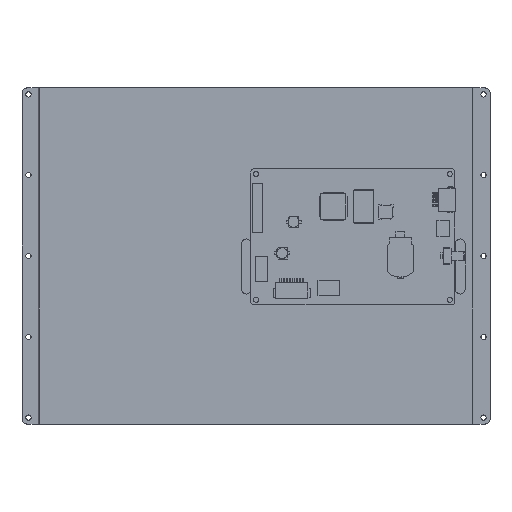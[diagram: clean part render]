
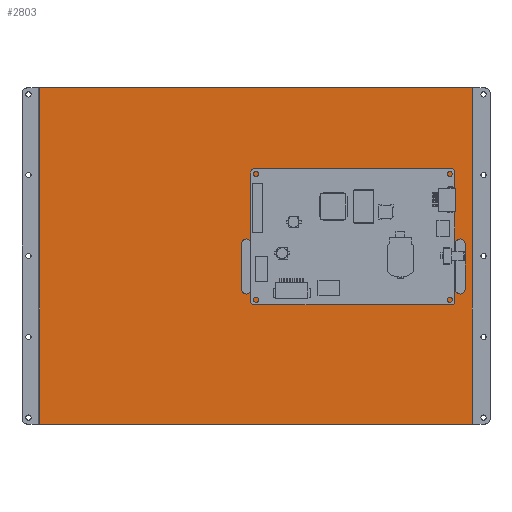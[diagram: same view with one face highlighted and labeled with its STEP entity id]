
A CAD part, top view. The second image highlights one B-rep face of the part: STEP entity #2803.
In plain terms, the highlighted planar face has unit normal (0, 0, 1).
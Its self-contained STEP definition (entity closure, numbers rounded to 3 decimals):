
#229=FACE_BOUND('',#7365,.T.);
#230=FACE_BOUND('',#7366,.T.);
#231=FACE_BOUND('',#7367,.T.);
#2803=ADVANCED_FACE('',(#229,#230,#231),#4313,.T.);
#4313=PLANE('',#32499);
#7365=EDGE_LOOP('',(#14634,#14635,#14636,#14637));
#7366=EDGE_LOOP('',(#14638,#14639,#14640,#14641));
#7367=EDGE_LOOP('',(#14642,#14643,#14644,#14645));
#14634=ORIENTED_EDGE('',*,*,#21594,.F.);
#14635=ORIENTED_EDGE('',*,*,#21595,.F.);
#14636=ORIENTED_EDGE('',*,*,#21596,.F.);
#14637=ORIENTED_EDGE('',*,*,#21597,.F.);
#14638=ORIENTED_EDGE('',*,*,#21598,.F.);
#14639=ORIENTED_EDGE('',*,*,#21599,.F.);
#14640=ORIENTED_EDGE('',*,*,#21600,.F.);
#14641=ORIENTED_EDGE('',*,*,#21601,.F.);
#14642=ORIENTED_EDGE('',*,*,#21602,.F.);
#14643=ORIENTED_EDGE('',*,*,#21593,.F.);
#14644=ORIENTED_EDGE('',*,*,#21603,.T.);
#14645=ORIENTED_EDGE('',*,*,#21604,.T.);
#17772=VERTEX_POINT('',#47968);
#17773=VERTEX_POINT('',#47970);
#17774=VERTEX_POINT('',#47974);
#17775=VERTEX_POINT('',#47975);
#17776=VERTEX_POINT('',#47977);
#17777=VERTEX_POINT('',#47979);
#17778=VERTEX_POINT('',#47982);
#17779=VERTEX_POINT('',#47983);
#17780=VERTEX_POINT('',#47985);
#17781=VERTEX_POINT('',#47987);
#17782=VERTEX_POINT('',#47990);
#17783=VERTEX_POINT('',#47992);
#21593=EDGE_CURVE('',#17773,#17772,#26158,.T.);
#21594=EDGE_CURVE('',#17774,#17775,#26159,.T.);
#21595=EDGE_CURVE('',#17776,#17774,#22114,.T.);
#21596=EDGE_CURVE('',#17777,#17776,#26160,.T.);
#21597=EDGE_CURVE('',#17775,#17777,#22115,.T.);
#21598=EDGE_CURVE('',#17778,#17779,#26161,.T.);
#21599=EDGE_CURVE('',#17780,#17778,#22116,.T.);
#21600=EDGE_CURVE('',#17781,#17780,#26162,.T.);
#21601=EDGE_CURVE('',#17779,#17781,#22117,.T.);
#21602=EDGE_CURVE('',#17772,#17782,#26163,.T.);
#21603=EDGE_CURVE('',#17773,#17783,#26164,.T.);
#21604=EDGE_CURVE('',#17783,#17782,#26165,.T.);
#22114=CIRCLE('',#32495,3.);
#22115=CIRCLE('',#32496,3.);
#22116=CIRCLE('',#32497,3.);
#22117=CIRCLE('',#32498,3.);
#26158=LINE('',#47971,#30116);
#26159=LINE('',#47973,#30117);
#26160=LINE('',#47978,#30118);
#26161=LINE('',#47981,#30119);
#26162=LINE('',#47986,#30120);
#26163=LINE('',#47989,#30121);
#26164=LINE('',#47991,#30122);
#26165=LINE('',#47993,#30123);
#30116=VECTOR('',#39206,1.);
#30117=VECTOR('',#39209,1.);
#30118=VECTOR('',#39212,1.);
#30119=VECTOR('',#39215,1.);
#30120=VECTOR('',#39218,1.);
#30121=VECTOR('',#39221,1.);
#30122=VECTOR('',#39222,1.);
#30123=VECTOR('',#39223,1.);
#32495=AXIS2_PLACEMENT_3D('',#47976,#39210,#39211);
#32496=AXIS2_PLACEMENT_3D('',#47980,#39213,#39214);
#32497=AXIS2_PLACEMENT_3D('',#47984,#39216,#39217);
#32498=AXIS2_PLACEMENT_3D('',#47988,#39219,#39220);
#32499=AXIS2_PLACEMENT_3D('',#47994,#39224,#39225);
#39206=DIRECTION('',(0.,1.,0.));
#39209=DIRECTION('',(0.,-1.,0.));
#39210=DIRECTION('',(0.,0.,1.));
#39211=DIRECTION('',(1.,0.,0.));
#39212=DIRECTION('',(0.,1.,0.));
#39213=DIRECTION('',(0.,0.,1.));
#39214=DIRECTION('',(1.,0.,0.));
#39215=DIRECTION('',(0.,-1.,0.));
#39216=DIRECTION('',(0.,0.,1.));
#39217=DIRECTION('',(1.,0.,0.));
#39218=DIRECTION('',(0.,1.,0.));
#39219=DIRECTION('',(0.,0.,1.));
#39220=DIRECTION('',(1.,0.,0.));
#39221=DIRECTION('',(1.,0.,0.));
#39222=DIRECTION('',(1.,0.,0.));
#39223=DIRECTION('',(0.,1.,0.));
#39224=DIRECTION('',(0.,0.,1.));
#39225=DIRECTION('',(1.,0.,0.));
#47968=CARTESIAN_POINT('',(307.625,400.664,-3.6));
#47970=CARTESIAN_POINT('',(307.625,193.264,-3.6));
#47971=CARTESIAN_POINT('',(307.625,193.264,-3.6));
#47973=CARTESIAN_POINT('',(564.025,304.464,-3.6));
#47974=CARTESIAN_POINT('',(564.025,304.464,-3.6));
#47975=CARTESIAN_POINT('',(564.025,276.464,-3.6));
#47976=CARTESIAN_POINT('',(567.025,304.464,-3.6));
#47977=CARTESIAN_POINT('',(570.025,304.464,-3.6));
#47978=CARTESIAN_POINT('',(570.025,276.464,-3.6));
#47979=CARTESIAN_POINT('',(570.025,276.464,-3.6));
#47980=CARTESIAN_POINT('',(567.025,276.464,-3.6));
#47981=CARTESIAN_POINT('',(432.025,304.464,-3.6));
#47982=CARTESIAN_POINT('',(432.025,304.464,-3.6));
#47983=CARTESIAN_POINT('',(432.025,276.464,-3.6));
#47984=CARTESIAN_POINT('',(435.025,304.464,-3.6));
#47985=CARTESIAN_POINT('',(438.025,304.464,-3.6));
#47986=CARTESIAN_POINT('',(438.025,276.464,-3.6));
#47987=CARTESIAN_POINT('',(438.025,276.464,-3.6));
#47988=CARTESIAN_POINT('',(435.025,276.464,-3.6));
#47989=CARTESIAN_POINT('',(307.625,400.664,-3.6));
#47990=CARTESIAN_POINT('',(574.425,400.664,-3.6));
#47991=CARTESIAN_POINT('',(307.625,193.264,-3.6));
#47992=CARTESIAN_POINT('',(574.425,193.264,-3.6));
#47993=CARTESIAN_POINT('',(574.425,193.264,-3.6));
#47994=CARTESIAN_POINT('',(307.625,193.264,-3.6));
